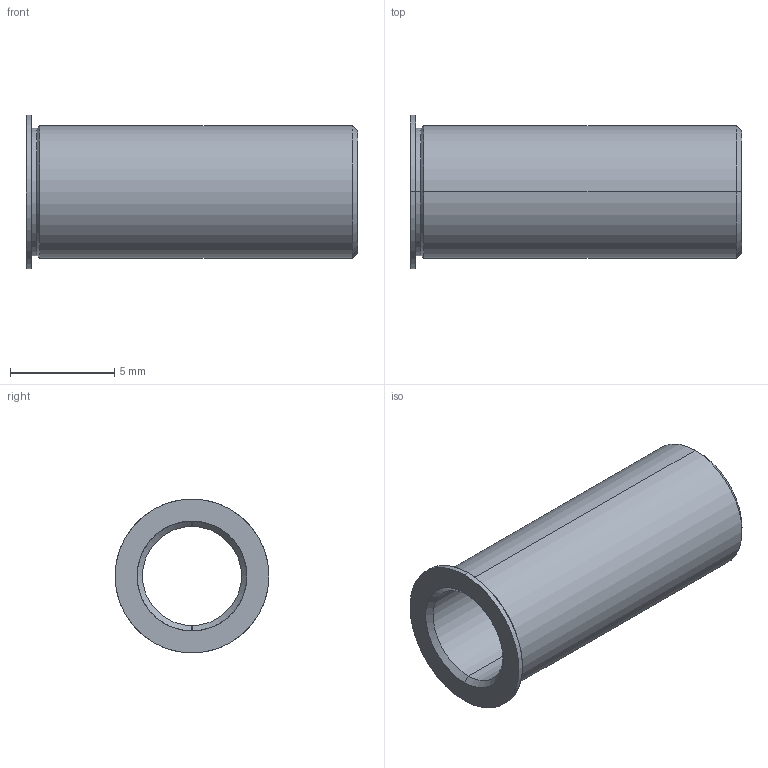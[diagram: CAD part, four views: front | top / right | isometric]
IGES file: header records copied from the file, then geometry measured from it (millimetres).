
Start section: SolidWorks IGES file using analytic representation for surfaces
Global section: file name: C:\Users\workpc\Desktop\KMA Solidworks\Imperial Bushings\Imperial Bushings IGES\TB187-100-625-S.IGS; native system: SolidWorks 2013; preprocessor: SolidWorks 2013; author: workpc; date: 130812.152131; units: inch
Bounding box: 15.88 x 7.37 x 7.37 mm (x, y, z)
Surface area: 600.7 mm2 (no closed solid volume)
Topology: 0 solids, 0 shells, 19 faces, 256 edges, 256 vertices
Faces by surface type: revolution 16, bspline 3
